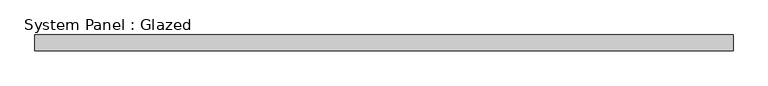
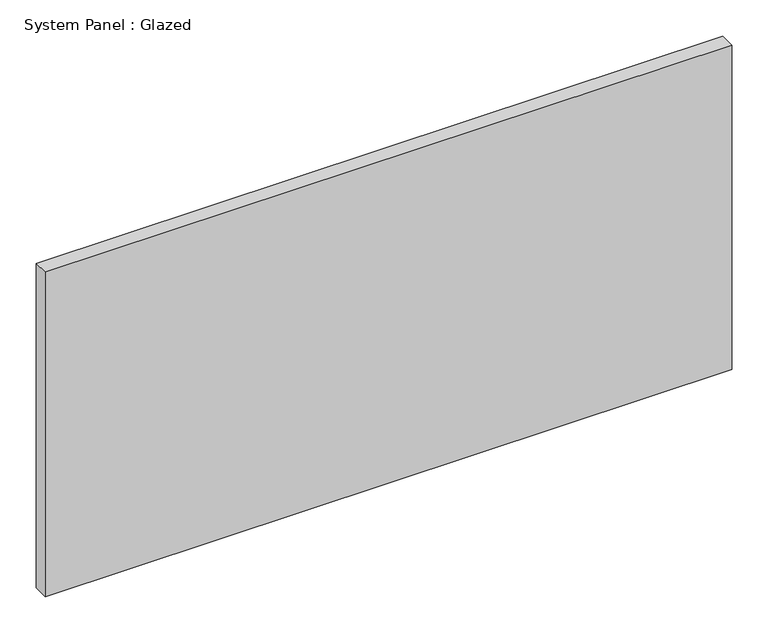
"""IFC4 building model written with IfcOpenShell, lengths in millimetres: plate geometry, System Panel : Glazed."""

from ifc_helpers import new_model, si_unit, origin, origin_with_axes, place, context, project, spatial, polyline, outline, extrude, source, transform, mapped, element, save


def system_panel_glazed_21c0f472(model_context):
    return source(origin(), model_context, "Body", "SweptSolid", [
        extrude(outline(polyline([(549.9999999, 24.5), (-549.9999999, 24.5), (-549.9999999, 49.5), (549.9999999, 49.5), (549.9999999, 24.5)])), origin_with_axes(), (0.0, 0.0, 1.0), 550.0),
    ])


if __name__ == "__main__":
    model = new_model("IFC4")
    model_context = context("Model", 3, world=origin())
    ifc_project = project(units=[si_unit("LENGTHUNIT", "METRE", prefix="MILLI")], contexts=[model_context])
    site = spatial("IfcSite", under=ifc_project)
    building = spatial("IfcBuilding", under=site)
    placement = place(None, origin())
    system_panel_glazed_shape = system_panel_glazed_21c0f472(model_context)
    element("IfcPlate", 1, ObjectType="System Panel : Glazed", at=placement, inside=building, context=model_context, shape_type="MappedRepresentation", body=[
        mapped(system_panel_glazed_shape, transform((0.0, 0.0, 0.0), x_axis=(1.0, 0.0, 0.0), y_axis=(0.0, 1.0, 0.0), z_axis=(0.0, 0.0, 1.0))),
    ])
    save(model, "model.ifc")
